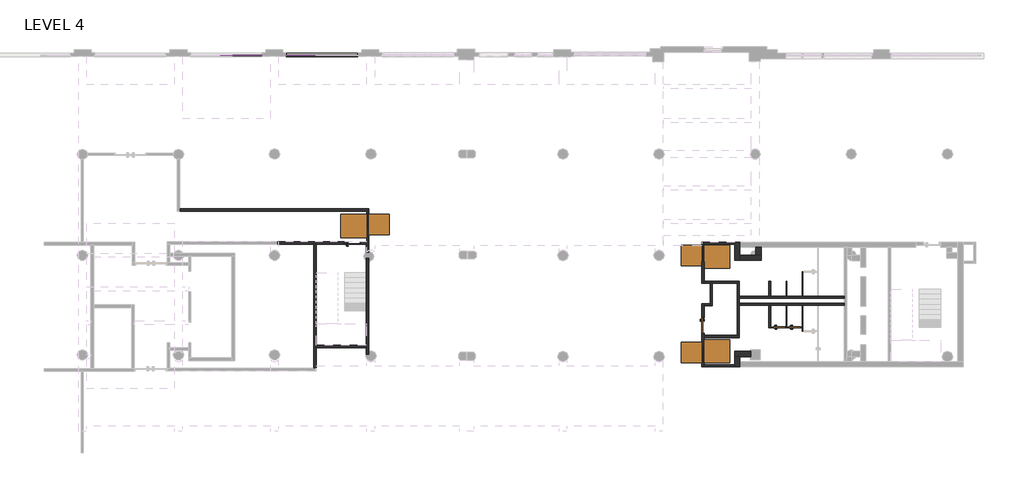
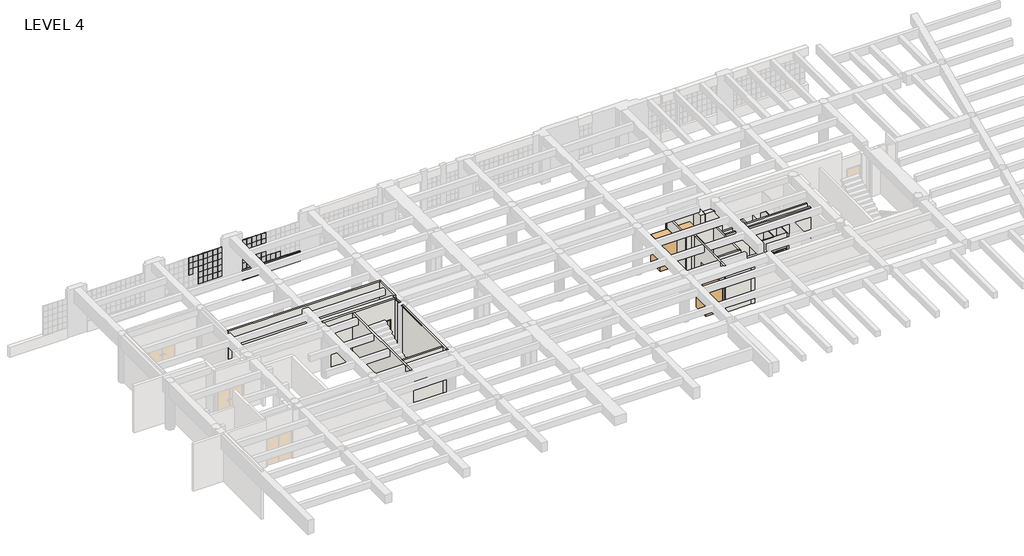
# One storey, part 11 of 26: 58 plates, 31 walls, 7 doors.
"""IFC4 building model written with IfcOpenShell, lengths in millimetres."""

from ifc_helpers import new_model, si_unit, frame, origin, origin_with_axes, place, context, project, spatial, polyline, outline, extrude, faceted_brep, transform, mapped, element, save
from components import door_08_door_single_swing_wh_f_28x60_77af0ad2, door_08_door_single_swing_wh_f_36x84_ec14af54, door_08_door_single_swing_wh_f_36x84_2c5d5a85, door_08_door_single_swing_wh_f_36x84_1fa449c7, door_08_door_single_swing_wh_f_36x84_601c17b8, system_panel_glazed_ab35d819, system_panel_glazed_418eb6cd, system_panel_glazed_c366ada3, system_panel_glazed_5fbbf350

model = new_model("IFC4")

# Units and contexts
model_context = context("Model", 3, world=origin())
ifc_project = project(units=[si_unit("LENGTHUNIT", "METRE", prefix="MILLI")], contexts=[model_context])

# Site, building, storey
site = spatial("IfcSite", under=ifc_project)
building = spatial("IfcBuilding", under=site)
storey = spatial("IfcBuildingStorey", under=building, Name="LEVEL 4", Elevation=0.0)

# Doors
placement = place(None, origin())
door_08_door_single_swing_wh_f_28x60_shape = door_08_door_single_swing_wh_f_28x60_77af0ad2(model_context)
element("IfcDoor", 1, ObjectType="08-DOOR-SINGLE-SWING-WH : F_28x60", at=placement, inside=storey, context=model_context, shape_type="MappedRepresentation", body=[
    mapped(door_08_door_single_swing_wh_f_28x60_shape, transform((-1571.4125493, 101025.8091334, 0.0), x_axis=(-1.0, 0.0, 0.0), y_axis=(0.0, -1.0, 0.0), z_axis=(0.0, 0.0, 1.0))),
])
element("IfcDoor", 2, ObjectType="08-DOOR-SINGLE-SWING-WH : F_28x60", at=placement, inside=storey, context=model_context, shape_type="MappedRepresentation", body=[
    mapped(door_08_door_single_swing_wh_f_28x60_shape, transform((-644.3125493, 101025.8091334, 0.0), x_axis=(-1.0, 0.0, 0.0), y_axis=(0.0, -1.0, 0.0), z_axis=(0.0, 0.0, 1.0))),
])
door_08_door_single_swing_wh_f_36x84_shape = door_08_door_single_swing_wh_f_36x84_ec14af54(model_context)
element("IfcDoor", 3, ObjectType="08-DOOR-SINGLE-SWING-WH : F_36x84", at=placement, inside=storey, context=model_context, shape_type="MappedRepresentation", body=[
    mapped(door_08_door_single_swing_wh_f_36x84_shape, transform((-6128.4403695, 99357.9417606, 0.0), x_axis=(0.0, 1.0, 0.0), y_axis=(-1.0, 0.0, 0.0), z_axis=(0.0, 0.0, 1.0))),
])
element("IfcDoor", 4, ObjectType="08-DOOR-SINGLE-SWING-WH : F_36x84", at=placement, inside=storey, context=model_context, shape_type="MappedRepresentation", body=[
    mapped(door_08_door_single_swing_wh_f_36x84_shape, transform((-26068.2134089, 107298.9244536, 0.0), x_axis=(0.0, -1.0, 0.0), y_axis=(1.0, 0.0, 0.0), z_axis=(0.0, 0.0, 1.0))),
])
door_08_door_single_swing_wh_f_36x84_2_shape = door_08_door_single_swing_wh_f_36x84_2c5d5a85(model_context)
element("IfcDoor", 5, ObjectType="08-DOOR-SINGLE-SWING-WH : F_36x84", at=placement, inside=storey, context=model_context, shape_type="MappedRepresentation", body=[
    mapped(door_08_door_single_swing_wh_f_36x84_2_shape, transform((-6128.4403695, 101128.0938133, 0.0), x_axis=(0.0, 1.0, 0.0), y_axis=(-1.0, 0.0, 0.0), z_axis=(0.0, 0.0, 1.0))),
])
door_08_door_single_swing_wh_f_36x84_3_shape = door_08_door_single_swing_wh_f_36x84_1fa449c7(model_context)
element("IfcDoor", 6, ObjectType="08-DOOR-SINGLE-SWING-WH : F_36x84", at=placement, inside=storey, context=model_context, shape_type="MappedRepresentation", body=[
    mapped(door_08_door_single_swing_wh_f_36x84_3_shape, transform((-6128.4403695, 105458.9224009, 0.0), x_axis=(0.0, -1.0, 0.0), y_axis=(1.0, 0.0, 0.0), z_axis=(0.0, 0.0, 1.0))),
])
door_08_door_single_swing_wh_f_36x84_4_shape = door_08_door_single_swing_wh_f_36x84_601c17b8(model_context)
element("IfcDoor", 7, ObjectType="08-DOOR-SINGLE-SWING-WH : F_36x84", at=placement, inside=storey, context=model_context, shape_type="MappedRepresentation", body=[
    mapped(door_08_door_single_swing_wh_f_36x84_4_shape, transform((-26953.1355887, 106035.9591334, 0.0), x_axis=(-1.0, 0.0, 0.0), y_axis=(0.0, -1.0, 0.0), z_axis=(0.0, 0.0, 1.0))),
])

# Plates
system_panel_glazed_shape = system_panel_glazed_ab35d819(model_context)
element("IfcPlate", 8, ObjectType="System Panel : Glazed", at=placement, inside=storey, context=model_context, shape_type="MappedRepresentation", body=[
    mapped(system_panel_glazed_shape, transform((-30728.4439794, 117226.3723091, 800.1), x_axis=(1.0, 0.0, 0.0), y_axis=(0.0, 1.0, 0.0), z_axis=(0.0, 0.0, 1.0))),
])
element("IfcPlate", 9, ObjectType="System Panel : Glazed", at=placement, inside=storey, context=model_context, shape_type="MappedRepresentation", body=[
    mapped(system_panel_glazed_shape, transform((-28239.2439792, 117226.3723091, 800.1), x_axis=(1.0, 0.0, 0.0), y_axis=(0.0, 1.0, 0.0), z_axis=(0.0, 0.0, 1.0))),
])
element("IfcPlate", 10, ObjectType="System Panel : Glazed", at=placement, inside=storey, context=model_context, shape_type="MappedRepresentation", body=[
    mapped(system_panel_glazed_shape, transform((-28594.8439792, 117226.3723091, 800.1), x_axis=(1.0, 0.0, 0.0), y_axis=(0.0, 1.0, 0.0), z_axis=(0.0, 0.0, 1.0))),
])
element("IfcPlate", 11, ObjectType="System Panel : Glazed", at=placement, inside=storey, context=model_context, shape_type="MappedRepresentation", body=[
    mapped(system_panel_glazed_shape, transform((-28950.4439792, 117226.3723091, 800.1), x_axis=(1.0, 0.0, 0.0), y_axis=(0.0, 1.0, 0.0), z_axis=(0.0, 0.0, 1.0))),
])
element("IfcPlate", 12, ObjectType="System Panel : Glazed", at=placement, inside=storey, context=model_context, shape_type="MappedRepresentation", body=[
    mapped(system_panel_glazed_shape, transform((-29306.0439792, 117226.3723091, 800.1), x_axis=(1.0, 0.0, 0.0), y_axis=(0.0, 1.0, 0.0), z_axis=(0.0, 0.0, 1.0))),
])
element("IfcPlate", 13, ObjectType="System Panel : Glazed", at=placement, inside=storey, context=model_context, shape_type="MappedRepresentation", body=[
    mapped(system_panel_glazed_shape, transform((-29661.6439792, 117226.3723091, 800.1), x_axis=(1.0, 0.0, 0.0), y_axis=(0.0, 1.0, 0.0), z_axis=(0.0, 0.0, 1.0))),
])
element("IfcPlate", 14, ObjectType="System Panel : Glazed", at=placement, inside=storey, context=model_context, shape_type="MappedRepresentation", body=[
    mapped(system_panel_glazed_shape, transform((-30728.4439794, 117226.3723091, 1257.3), x_axis=(1.0, 0.0, 0.0), y_axis=(0.0, 1.0, 0.0), z_axis=(0.0, 0.0, 1.0))),
])
element("IfcPlate", 15, ObjectType="System Panel : Glazed", at=placement, inside=storey, context=model_context, shape_type="MappedRepresentation", body=[
    mapped(system_panel_glazed_shape, transform((-29306.0439792, 117226.3723091, 1257.3), x_axis=(1.0, 0.0, 0.0), y_axis=(0.0, 1.0, 0.0), z_axis=(0.0, 0.0, 1.0))),
])
element("IfcPlate", 16, ObjectType="System Panel : Glazed", at=placement, inside=storey, context=model_context, shape_type="MappedRepresentation", body=[
    mapped(system_panel_glazed_shape, transform((-29661.6439792, 117226.3723091, 1257.3), x_axis=(1.0, 0.0, 0.0), y_axis=(0.0, 1.0, 0.0), z_axis=(0.0, 0.0, 1.0))),
])
element("IfcPlate", 17, ObjectType="System Panel : Glazed", at=placement, inside=storey, context=model_context, shape_type="MappedRepresentation", body=[
    mapped(system_panel_glazed_shape, transform((-30728.4439794, 117226.3723091, 1714.5), x_axis=(1.0, 0.0, 0.0), y_axis=(0.0, 1.0, 0.0), z_axis=(0.0, 0.0, 1.0))),
])
element("IfcPlate", 18, ObjectType="System Panel : Glazed", at=placement, inside=storey, context=model_context, shape_type="MappedRepresentation", body=[
    mapped(system_panel_glazed_shape, transform((-29306.0439792, 117226.3723091, 1714.5), x_axis=(1.0, 0.0, 0.0), y_axis=(0.0, 1.0, 0.0), z_axis=(0.0, 0.0, 1.0))),
])
element("IfcPlate", 19, ObjectType="System Panel : Glazed", at=placement, inside=storey, context=model_context, shape_type="MappedRepresentation", body=[
    mapped(system_panel_glazed_shape, transform((-29661.6439792, 117226.3723091, 1714.5), x_axis=(1.0, 0.0, 0.0), y_axis=(0.0, 1.0, 0.0), z_axis=(0.0, 0.0, 1.0))),
])
element("IfcPlate", 20, ObjectType="System Panel : Glazed", at=placement, inside=storey, context=model_context, shape_type="MappedRepresentation", body=[
    mapped(system_panel_glazed_shape, transform((-30728.4439794, 117226.3723091, 2171.7), x_axis=(1.0, 0.0, 0.0), y_axis=(0.0, 1.0, 0.0), z_axis=(0.0, 0.0, 1.0))),
])
element("IfcPlate", 21, ObjectType="System Panel : Glazed", at=placement, inside=storey, context=model_context, shape_type="MappedRepresentation", body=[
    mapped(system_panel_glazed_shape, transform((-29306.0439792, 117226.3723091, 2171.7), x_axis=(1.0, 0.0, 0.0), y_axis=(0.0, 1.0, 0.0), z_axis=(0.0, 0.0, 1.0))),
])
element("IfcPlate", 22, ObjectType="System Panel : Glazed", at=placement, inside=storey, context=model_context, shape_type="MappedRepresentation", body=[
    mapped(system_panel_glazed_shape, transform((-29661.6439792, 117226.3723091, 2171.7), x_axis=(1.0, 0.0, 0.0), y_axis=(0.0, 1.0, 0.0), z_axis=(0.0, 0.0, 1.0))),
])
element("IfcPlate", 23, ObjectType="System Panel : Glazed", at=placement, inside=storey, context=model_context, shape_type="MappedRepresentation", body=[
    mapped(system_panel_glazed_shape, transform((-30372.8439792, 117226.3723091, 800.1), x_axis=(1.0, 0.0, 0.0), y_axis=(0.0, 1.0, 0.0), z_axis=(0.0, 0.0, 1.0))),
])
element("IfcPlate", 24, ObjectType="System Panel : Glazed", at=placement, inside=storey, context=model_context, shape_type="MappedRepresentation", body=[
    mapped(system_panel_glazed_shape, transform((-30372.8439792, 117226.3723091, 1257.3), x_axis=(1.0, 0.0, 0.0), y_axis=(0.0, 1.0, 0.0), z_axis=(0.0, 0.0, 1.0))),
])
element("IfcPlate", 25, ObjectType="System Panel : Glazed", at=placement, inside=storey, context=model_context, shape_type="MappedRepresentation", body=[
    mapped(system_panel_glazed_shape, transform((-30372.8439792, 117226.3723091, 1714.5), x_axis=(1.0, 0.0, 0.0), y_axis=(0.0, 1.0, 0.0), z_axis=(0.0, 0.0, 1.0))),
])
element("IfcPlate", 26, ObjectType="System Panel : Glazed", at=placement, inside=storey, context=model_context, shape_type="MappedRepresentation", body=[
    mapped(system_panel_glazed_shape, transform((-30372.8439792, 117226.3723091, 2171.7), x_axis=(1.0, 0.0, 0.0), y_axis=(0.0, 1.0, 0.0), z_axis=(0.0, 0.0, 1.0))),
])
element("IfcPlate", 27, ObjectType="System Panel : Glazed", at=placement, inside=storey, context=model_context, shape_type="MappedRepresentation", body=[
    mapped(system_panel_glazed_shape, transform((-30017.2439792, 117226.3723091, 800.1), x_axis=(1.0, 0.0, 0.0), y_axis=(0.0, 1.0, 0.0), z_axis=(0.0, 0.0, 1.0))),
])
element("IfcPlate", 28, ObjectType="System Panel : Glazed", at=placement, inside=storey, context=model_context, shape_type="MappedRepresentation", body=[
    mapped(system_panel_glazed_shape, transform((-30017.2439792, 117226.3723091, 1257.3), x_axis=(1.0, 0.0, 0.0), y_axis=(0.0, 1.0, 0.0), z_axis=(0.0, 0.0, 1.0))),
])
element("IfcPlate", 29, ObjectType="System Panel : Glazed", at=placement, inside=storey, context=model_context, shape_type="MappedRepresentation", body=[
    mapped(system_panel_glazed_shape, transform((-30017.2439792, 117226.3723091, 1714.5), x_axis=(1.0, 0.0, 0.0), y_axis=(0.0, 1.0, 0.0), z_axis=(0.0, 0.0, 1.0))),
])
element("IfcPlate", 30, ObjectType="System Panel : Glazed", at=placement, inside=storey, context=model_context, shape_type="MappedRepresentation", body=[
    mapped(system_panel_glazed_shape, transform((-30017.2439792, 117226.3723091, 2171.7), x_axis=(1.0, 0.0, 0.0), y_axis=(0.0, 1.0, 0.0), z_axis=(0.0, 0.0, 1.0))),
])
element("IfcPlate", 31, ObjectType="System Panel : Glazed", at=placement, inside=storey, context=model_context, shape_type="MappedRepresentation", body=[
    mapped(system_panel_glazed_shape, transform((-32867.5794115, 117218.5604847, 800.1), x_axis=(1.0, 0.0, 0.0), y_axis=(0.0, 1.0, 0.0), z_axis=(0.0, 0.0, 1.0))),
])
element("IfcPlate", 32, ObjectType="System Panel : Glazed", at=placement, inside=storey, context=model_context, shape_type="MappedRepresentation", body=[
    mapped(system_panel_glazed_shape, transform((-33223.1794115, 117218.5604847, 800.1), x_axis=(1.0, 0.0, 0.0), y_axis=(0.0, 1.0, 0.0), z_axis=(0.0, 0.0, 1.0))),
])
element("IfcPlate", 33, ObjectType="System Panel : Glazed", at=placement, inside=storey, context=model_context, shape_type="MappedRepresentation", body=[
    mapped(system_panel_glazed_shape, transform((-33578.7794115, 117218.5604847, 800.1), x_axis=(1.0, 0.0, 0.0), y_axis=(0.0, 1.0, 0.0), z_axis=(0.0, 0.0, 1.0))),
])
element("IfcPlate", 34, ObjectType="System Panel : Glazed", at=placement, inside=storey, context=model_context, shape_type="MappedRepresentation", body=[
    mapped(system_panel_glazed_shape, transform((-33934.3794115, 117218.5604847, 800.1), x_axis=(1.0, 0.0, 0.0), y_axis=(0.0, 1.0, 0.0), z_axis=(0.0, 0.0, 1.0))),
])
element("IfcPlate", 35, ObjectType="System Panel : Glazed", at=placement, inside=storey, context=model_context, shape_type="MappedRepresentation", body=[
    mapped(system_panel_glazed_shape, transform((-33223.1794115, 117218.5604847, 1257.3), x_axis=(1.0, 0.0, 0.0), y_axis=(0.0, 1.0, 0.0), z_axis=(0.0, 0.0, 1.0))),
])
element("IfcPlate", 36, ObjectType="System Panel : Glazed", at=placement, inside=storey, context=model_context, shape_type="MappedRepresentation", body=[
    mapped(system_panel_glazed_shape, transform((-33578.7794115, 117218.5604847, 1257.3), x_axis=(1.0, 0.0, 0.0), y_axis=(0.0, 1.0, 0.0), z_axis=(0.0, 0.0, 1.0))),
])
element("IfcPlate", 37, ObjectType="System Panel : Glazed", at=placement, inside=storey, context=model_context, shape_type="MappedRepresentation", body=[
    mapped(system_panel_glazed_shape, transform((-33934.3794115, 117218.5604847, 1257.3), x_axis=(1.0, 0.0, 0.0), y_axis=(0.0, 1.0, 0.0), z_axis=(0.0, 0.0, 1.0))),
])
element("IfcPlate", 38, ObjectType="System Panel : Glazed", at=placement, inside=storey, context=model_context, shape_type="MappedRepresentation", body=[
    mapped(system_panel_glazed_shape, transform((-32867.5794115, 117218.5604847, 1257.3), x_axis=(1.0, 0.0, 0.0), y_axis=(0.0, 1.0, 0.0), z_axis=(0.0, 0.0, 1.0))),
])
element("IfcPlate", 39, ObjectType="System Panel : Glazed", at=placement, inside=storey, context=model_context, shape_type="MappedRepresentation", body=[
    mapped(system_panel_glazed_shape, transform((-33223.1794115, 117218.5604847, 1714.5), x_axis=(1.0, 0.0, 0.0), y_axis=(0.0, 1.0, 0.0), z_axis=(0.0, 0.0, 1.0))),
])
element("IfcPlate", 40, ObjectType="System Panel : Glazed", at=placement, inside=storey, context=model_context, shape_type="MappedRepresentation", body=[
    mapped(system_panel_glazed_shape, transform((-33578.7794115, 117218.5604847, 1714.5), x_axis=(1.0, 0.0, 0.0), y_axis=(0.0, 1.0, 0.0), z_axis=(0.0, 0.0, 1.0))),
])
element("IfcPlate", 41, ObjectType="System Panel : Glazed", at=placement, inside=storey, context=model_context, shape_type="MappedRepresentation", body=[
    mapped(system_panel_glazed_shape, transform((-33934.3794115, 117218.5604847, 1714.5), x_axis=(1.0, 0.0, 0.0), y_axis=(0.0, 1.0, 0.0), z_axis=(0.0, 0.0, 1.0))),
])
element("IfcPlate", 42, ObjectType="System Panel : Glazed", at=placement, inside=storey, context=model_context, shape_type="MappedRepresentation", body=[
    mapped(system_panel_glazed_shape, transform((-34645.5794115, 117218.5604847, 1714.5), x_axis=(1.0, 0.0, 0.0), y_axis=(0.0, 1.0, 0.0), z_axis=(0.0, 0.0, 1.0))),
])
element("IfcPlate", 43, ObjectType="System Panel : Glazed", at=placement, inside=storey, context=model_context, shape_type="MappedRepresentation", body=[
    mapped(system_panel_glazed_shape, transform((-32867.5794115, 117218.5604847, 1714.5), x_axis=(1.0, 0.0, 0.0), y_axis=(0.0, 1.0, 0.0), z_axis=(0.0, 0.0, 1.0))),
])
element("IfcPlate", 44, ObjectType="System Panel : Glazed", at=placement, inside=storey, context=model_context, shape_type="MappedRepresentation", body=[
    mapped(system_panel_glazed_shape, transform((-33223.1794115, 117218.5604847, 2171.7), x_axis=(1.0, 0.0, 0.0), y_axis=(0.0, 1.0, 0.0), z_axis=(0.0, 0.0, 1.0))),
])
element("IfcPlate", 45, ObjectType="System Panel : Glazed", at=placement, inside=storey, context=model_context, shape_type="MappedRepresentation", body=[
    mapped(system_panel_glazed_shape, transform((-33578.7794115, 117218.5604847, 2171.7), x_axis=(1.0, 0.0, 0.0), y_axis=(0.0, 1.0, 0.0), z_axis=(0.0, 0.0, 1.0))),
])
element("IfcPlate", 46, ObjectType="System Panel : Glazed", at=placement, inside=storey, context=model_context, shape_type="MappedRepresentation", body=[
    mapped(system_panel_glazed_shape, transform((-33934.3794115, 117218.5604847, 2171.7), x_axis=(1.0, 0.0, 0.0), y_axis=(0.0, 1.0, 0.0), z_axis=(0.0, 0.0, 1.0))),
])
element("IfcPlate", 47, ObjectType="System Panel : Glazed", at=placement, inside=storey, context=model_context, shape_type="MappedRepresentation", body=[
    mapped(system_panel_glazed_shape, transform((-34289.9794115, 117218.5604847, 2171.7), x_axis=(1.0, 0.0, 0.0), y_axis=(0.0, 1.0, 0.0), z_axis=(0.0, 0.0, 1.0))),
])
element("IfcPlate", 48, ObjectType="System Panel : Glazed", at=placement, inside=storey, context=model_context, shape_type="MappedRepresentation", body=[
    mapped(system_panel_glazed_shape, transform((-34645.5794115, 117218.5604847, 2171.7), x_axis=(1.0, 0.0, 0.0), y_axis=(0.0, 1.0, 0.0), z_axis=(0.0, 0.0, 1.0))),
])
element("IfcPlate", 49, ObjectType="System Panel : Glazed", at=placement, inside=storey, context=model_context, shape_type="MappedRepresentation", body=[
    mapped(system_panel_glazed_shape, transform((-32867.5794115, 117218.5604847, 2171.7), x_axis=(1.0, 0.0, 0.0), y_axis=(0.0, 1.0, 0.0), z_axis=(0.0, 0.0, 1.0))),
])
system_panel_glazed_2_shape = system_panel_glazed_418eb6cd(model_context)
element("IfcPlate", 50, ObjectType="System Panel : Glazed", at=placement, inside=storey, context=model_context, shape_type="MappedRepresentation", body=[
    mapped(system_panel_glazed_2_shape, transform((-30728.4439794, 117226.3723091, 2628.9), x_axis=(1.0, 0.0, 0.0), y_axis=(0.0, 1.0, 0.0), z_axis=(0.0, 0.0, 1.0))),
])
element("IfcPlate", 51, ObjectType="System Panel : Glazed", at=placement, inside=storey, context=model_context, shape_type="MappedRepresentation", body=[
    mapped(system_panel_glazed_2_shape, transform((-29306.0439792, 117226.3723091, 2628.9), x_axis=(1.0, 0.0, 0.0), y_axis=(0.0, 1.0, 0.0), z_axis=(0.0, 0.0, 1.0))),
])
element("IfcPlate", 52, ObjectType="System Panel : Glazed", at=placement, inside=storey, context=model_context, shape_type="MappedRepresentation", body=[
    mapped(system_panel_glazed_2_shape, transform((-29661.6439792, 117226.3723091, 2628.9), x_axis=(1.0, 0.0, 0.0), y_axis=(0.0, 1.0, 0.0), z_axis=(0.0, 0.0, 1.0))),
])
element("IfcPlate", 53, ObjectType="System Panel : Glazed", at=placement, inside=storey, context=model_context, shape_type="MappedRepresentation", body=[
    mapped(system_panel_glazed_2_shape, transform((-30372.8439792, 117226.3723091, 2628.9), x_axis=(1.0, 0.0, 0.0), y_axis=(0.0, 1.0, 0.0), z_axis=(0.0, 0.0, 1.0))),
])
element("IfcPlate", 54, ObjectType="System Panel : Glazed", at=placement, inside=storey, context=model_context, shape_type="MappedRepresentation", body=[
    mapped(system_panel_glazed_2_shape, transform((-30017.2439792, 117226.3723091, 2628.9), x_axis=(1.0, 0.0, 0.0), y_axis=(0.0, 1.0, 0.0), z_axis=(0.0, 0.0, 1.0))),
])
element("IfcPlate", 55, ObjectType="System Panel : Glazed", at=placement, inside=storey, context=model_context, shape_type="MappedRepresentation", body=[
    mapped(system_panel_glazed_2_shape, transform((-33223.1794115, 117218.5604847, 2628.9), x_axis=(1.0, 0.0, 0.0), y_axis=(0.0, 1.0, 0.0), z_axis=(0.0, 0.0, 1.0))),
])
element("IfcPlate", 56, ObjectType="System Panel : Glazed", at=placement, inside=storey, context=model_context, shape_type="MappedRepresentation", body=[
    mapped(system_panel_glazed_2_shape, transform((-33578.7794115, 117218.5604847, 2628.9), x_axis=(1.0, 0.0, 0.0), y_axis=(0.0, 1.0, 0.0), z_axis=(0.0, 0.0, 1.0))),
])
element("IfcPlate", 57, ObjectType="System Panel : Glazed", at=placement, inside=storey, context=model_context, shape_type="MappedRepresentation", body=[
    mapped(system_panel_glazed_2_shape, transform((-33934.3794115, 117218.5604847, 2628.9), x_axis=(1.0, 0.0, 0.0), y_axis=(0.0, 1.0, 0.0), z_axis=(0.0, 0.0, 1.0))),
])
element("IfcPlate", 58, ObjectType="System Panel : Glazed", at=placement, inside=storey, context=model_context, shape_type="MappedRepresentation", body=[
    mapped(system_panel_glazed_2_shape, transform((-34289.9794115, 117218.5604847, 2628.9), x_axis=(1.0, 0.0, 0.0), y_axis=(0.0, 1.0, 0.0), z_axis=(0.0, 0.0, 1.0))),
])
element("IfcPlate", 59, ObjectType="System Panel : Glazed", at=placement, inside=storey, context=model_context, shape_type="MappedRepresentation", body=[
    mapped(system_panel_glazed_2_shape, transform((-34645.5794115, 117218.5604847, 2628.9), x_axis=(1.0, 0.0, 0.0), y_axis=(0.0, 1.0, 0.0), z_axis=(0.0, 0.0, 1.0))),
])
element("IfcPlate", 60, ObjectType="System Panel : Glazed", at=placement, inside=storey, context=model_context, shape_type="MappedRepresentation", body=[
    mapped(system_panel_glazed_2_shape, transform((-32867.5794115, 117218.5604847, 2628.9), x_axis=(1.0, 0.0, 0.0), y_axis=(0.0, 1.0, 0.0), z_axis=(0.0, 0.0, 1.0))),
])
system_panel_glazed_3_shape = system_panel_glazed_c366ada3(model_context)
element("IfcPlate", 61, ObjectType="System Panel : Glazed", at=placement, inside=storey, context=model_context, shape_type="MappedRepresentation", body=[
    mapped(system_panel_glazed_3_shape, transform((-32528.2616955, 117218.5604847, 800.1), x_axis=(1.0, 0.0, 0.0), y_axis=(0.0, 1.0, 0.0), z_axis=(0.0, 0.0, 1.0))),
])
element("IfcPlate", 62, ObjectType="System Panel : Glazed", at=placement, inside=storey, context=model_context, shape_type="MappedRepresentation", body=[
    mapped(system_panel_glazed_3_shape, transform((-32528.2616955, 117218.5604847, 1257.3), x_axis=(1.0, 0.0, 0.0), y_axis=(0.0, 1.0, 0.0), z_axis=(0.0, 0.0, 1.0))),
])
element("IfcPlate", 63, ObjectType="System Panel : Glazed", at=placement, inside=storey, context=model_context, shape_type="MappedRepresentation", body=[
    mapped(system_panel_glazed_3_shape, transform((-32528.2616955, 117218.5604847, 1714.5), x_axis=(1.0, 0.0, 0.0), y_axis=(0.0, 1.0, 0.0), z_axis=(0.0, 0.0, 1.0))),
])
element("IfcPlate", 64, ObjectType="System Panel : Glazed", at=placement, inside=storey, context=model_context, shape_type="MappedRepresentation", body=[
    mapped(system_panel_glazed_3_shape, transform((-32528.2616955, 117218.5604847, 2171.7), x_axis=(1.0, 0.0, 0.0), y_axis=(0.0, 1.0, 0.0), z_axis=(0.0, 0.0, 1.0))),
])
system_panel_glazed_4_shape = system_panel_glazed_5fbbf350(model_context)
element("IfcPlate", 65, ObjectType="System Panel : Glazed", at=placement, inside=storey, context=model_context, shape_type="MappedRepresentation", body=[
    mapped(system_panel_glazed_4_shape, transform((-32528.2616955, 117218.5604847, 2628.9), x_axis=(1.0, 0.0, 0.0), y_axis=(0.0, 1.0, 0.0), z_axis=(0.0, 0.0, 1.0))),
])

# Walls
element("IfcWall", 66, ObjectType="A_3.6Stud_0Hr_1GB_FullHeight", at=placement, inside=storey, context=model_context, shape_type="Brep", body=[
    faceted_brep([(-6190.3528695, 105967.6070808, 0.0), (-6066.5278695, 105967.6070808, 0.0), (-4240.9028695, 105967.6070808, 0.0), (-4240.9028695, 105967.6070808, 3048.0), (-6066.5278695, 105967.6070808, 3048.0), (-6190.3528695, 105967.6070808, 3048.0), (-6190.3528695, 106091.4320808, 0.0), (-6190.3528695, 106091.4320808, 3048.0), (-4240.9028695, 106091.4320808, 3048.0), (-4240.9028695, 106091.4320808, 0.0)], [[[0, 1, 2, 3, 4, 5]], [[6, 7, 8, 9]], [[2, 1, 0, 6, 9]], [[5, 4, 3, 8, 7]], [[0, 5, 7, 6]], [[3, 2, 9, 8]]]),
])
element("IfcWall", 67, ObjectType="A_3.6Stud_0Hr_1GB_FullHeight", at=placement, inside=storey, context=model_context, shape_type="Brep", body=[
    faceted_brep([(-6066.5278695, 101654.4591334, 2184.4), (-6066.5278695, 101654.4591334, 0.0), (-6066.5278695, 102297.3070808, 0.0), (-6066.5278695, 102424.3070808, 0.0), (-6066.5278695, 102424.3070808, 3048.0), (-6066.5278695, 102424.3070808, 3657.6), (-6066.5278695, 98674.6320808, 3657.6), (-6066.5278695, 98674.6320808, 3048.0), (-6066.5278695, 98674.6320808, 0.0), (-6066.5278695, 98798.4570808, 0.0), (-6066.5278695, 98868.3070808, 0.0), (-6066.5278695, 98868.3070808, 2184.4), (-6066.5278695, 99884.3070808, 2184.4), (-6066.5278695, 99884.3070808, 0.0), (-6066.5278695, 100417.7070808, 0.0), (-6066.5278695, 100547.8820808, 0.0), (-6066.5278695, 100638.4591334, 0.0), (-6066.5278695, 100638.4591334, 2184.4), (-6190.3528695, 102424.3070808, 0.0), (-6190.3528695, 101654.4591334, 0.0), (-6190.3528695, 101654.4591334, 2184.4), (-6190.3528695, 100638.4591334, 2184.4), (-6190.3528695, 100638.4591334, 0.0), (-6190.3528695, 99884.3070808, 0.0), (-6190.3528695, 99884.3070808, 2184.4), (-6190.3528695, 98868.3070808, 2184.4), (-6190.3528695, 98868.3070808, 0.0), (-6190.3528695, 98674.6320808, 0.0), (-6190.3528695, 98674.6320808, 3657.6), (-6190.3528695, 102424.3070808, 3657.6)], [[[0, 1, 2, 3, 4, 5, 6, 7, 8, 9, 10, 11, 12, 13, 14, 15, 16, 17]], [[18, 19, 20, 21, 22, 23, 24, 25, 26, 27, 28, 29]], [[10, 9, 8, 27, 26]], [[16, 15, 14, 13, 23, 22]], [[3, 2, 1, 19, 18]], [[6, 5, 29, 28]], [[8, 7, 6, 28, 27]], [[26, 25, 11, 10]], [[24, 23, 13, 12]], [[25, 24, 12, 11]], [[22, 21, 17, 16]], [[20, 19, 1, 0]], [[21, 20, 0, 17]], [[5, 4, 3, 18, 29]]]),
])
element("IfcWall", 68, ObjectType="A_3.6Stud_0Hr_1GB_FullHeight", at=placement, inside=storey, context=model_context, shape_type="SweptSolid", body=[
    extrude(outline(polyline([(-4240.9028695, 98674.6320808), (-6066.5278695, 98674.6320808), (-6066.5278695, 98798.4570808), (-4240.9028695, 98798.4570808), (-4240.9028695, 98674.6320808)])), origin_with_axes(), (0.0, 0.0, 1.0), 3048.0),
])
element("IfcWall", 69, ObjectType="A_3.6Stud_0Hr_1GB_FullHeight", at=placement, inside=storey, context=model_context, shape_type="Brep", body=[
    faceted_brep([(-6066.5278695, 105967.6070808, 3048.0), (-6066.5278695, 103764.1570808, 3048.0), (-6066.5278695, 103637.1570808, 3048.0), (-6066.5278695, 103637.1570808, 0.0), (-6066.5278695, 103764.1570808, 0.0), (-6066.5278695, 104932.5570808, 0.0), (-6066.5278695, 104932.5570808, 2184.4), (-6066.5278695, 105948.5570808, 2184.4), (-6066.5278695, 105948.5570808, 0.0), (-6066.5278695, 105967.6070808, 0.0), (-6190.3528695, 103637.1570808, 3048.0), (-6190.3528695, 105967.6070808, 3048.0), (-6190.3528695, 105967.6070808, 0.0), (-6190.3528695, 105948.5570808, 0.0), (-6190.3528695, 105948.5570808, 2184.4), (-6190.3528695, 104932.5570808, 2184.4), (-6190.3528695, 104932.5570808, 0.0), (-6190.3528695, 103637.1570808, 0.0)], [[[0, 1, 2, 3, 4, 5, 6, 7, 8, 9]], [[10, 11, 12, 13, 14, 15, 16, 17]], [[12, 9, 8, 13]], [[3, 17, 16, 5, 4]], [[2, 1, 0, 11, 10]], [[0, 9, 12, 11]], [[3, 2, 10, 17]], [[7, 14, 13, 8]], [[15, 6, 5, 16]], [[14, 7, 6, 15]]]),
])
element("IfcWall", 70, ObjectType="A_3.6Stud_0Hr_1GB_FullHeight", at=placement, inside=storey, context=model_context, shape_type="Brep", body=[
    faceted_brep([(-2097.7778695, 101013.1091334, 0.0), (-2097.7778695, 102343.4341334, 0.0), (-2097.7778695, 102343.4341334, 2743.2), (-2097.7778695, 101038.5091334, 2743.2), (-2097.7778695, 101013.1091334, 2743.2), (-2097.7778695, 101013.1091334, 304.8), (-2221.6028695, 101013.1091334, 0.0), (-2221.6028695, 101013.1091334, 2743.2), (-2221.6028695, 102343.4341334, 2743.2), (-2221.6028695, 102343.4341334, 0.0)], [[[0, 1, 2, 3, 4, 5]], [[6, 7, 8, 9]], [[1, 0, 6, 9]], [[4, 3, 2, 8, 7]], [[2, 1, 9, 8]], [[0, 5, 4, 7, 6]]]),
])
element("IfcWall", 71, ObjectType="F_3.6Stud_0Hr_1GB_FullHtFurring", at=placement, inside=storey, context=model_context, shape_type="Brep", body=[
    faceted_brep([(-3980.5528695, 102343.4341334, 0.0), (-2221.6028695, 102343.4341334, 0.0), (-2097.7778695, 102343.4341334, 0.0), (2283.7221305, 102343.4341334, 0.0), (2283.7221305, 102343.4341334, 3048.0), (-3980.5528695, 102343.4341334, 3048.0), (-3980.5528695, 102451.3841334, 0.0), (-3980.5528695, 102451.3841334, 3048.0), (2283.7221305, 102451.3841334, 3048.0), (2283.7221305, 102451.3841334, 0.0)], [[[0, 1, 2, 3, 4, 5]], [[6, 7, 8, 9]], [[3, 2, 1, 0, 6, 9]], [[5, 4, 8, 7]], [[4, 3, 9, 8]], [[0, 5, 7, 6]]]),
])
element("IfcWall", 72, ObjectType="F_3.6Stud_0Hr_1GB_FullHtFurring", at=placement, inside=storey, context=model_context, shape_type="Brep", body=[
    faceted_brep([(-3980.5528695, 102762.5341334, 0.0), (2283.7221305, 102762.5341334, 0.0), (2283.7221305, 102762.5341334, 3048.0), (-3980.5528695, 102762.5341334, 3048.0), (-3980.5528695, 102870.4841334, 0.0), (-3980.5528695, 102870.4841334, 3048.0), (-2221.6028695, 102870.4841334, 3048.0), (-2097.7778695, 102870.4841334, 3048.0), (2283.7221305, 102870.4841334, 3048.0), (2283.7221305, 102870.4841334, 0.0), (-2097.7778695, 102870.4841334, 0.0), (-2221.6028695, 102870.4841334, 0.0)], [[[0, 1, 2, 3]], [[4, 5, 6, 7, 8, 9, 10, 11]], [[1, 0, 4, 11, 10, 9]], [[3, 2, 8, 7, 6, 5]], [[2, 1, 9, 8]], [[0, 3, 5, 4]]]),
])
element("IfcWall", 73, ObjectType="A_3.6Stud_0Hr_1GB_FullHeight", at=placement, inside=storey, context=model_context, shape_type="SweptSolid", body=[
    extrude(outline(polyline([(-2097.7778695, 103764.1570808), (-2097.7778695, 102870.4841334), (-2221.6028695, 102870.4841334), (-2221.6028695, 103764.1570808), (-2097.7778695, 103764.1570808)])), origin_with_axes(), (0.0, 0.0, 1.0), 3048.0),
])
element("IfcWall", 74, ObjectType="A_3.6Stud_0Hr_1GB_FullHeight", at=placement, inside=storey, context=model_context, shape_type="Brep", body=[
    faceted_brep([(-3980.5528695, 100547.8820808, 0.0), (-3980.5528695, 102343.4341334, 0.0), (-3980.5528695, 102451.3841334, 0.0), (-3980.5528695, 102762.5341334, 0.0), (-3980.5528695, 102870.4841334, 0.0), (-3980.5528695, 103637.1570808, 0.0), (-3980.5528695, 103637.1570808, 3048.0), (-3980.5528695, 102870.4841334, 3048.0), (-3980.5528695, 102762.5341334, 3048.0), (-3980.5528695, 102451.3841334, 3048.0), (-3980.5528695, 102343.4341334, 3048.0), (-3980.5528695, 100547.8820808, 3048.0), (-4104.3778695, 100547.8820808, 0.0), (-4104.3778695, 100547.8820808, 3048.0), (-4104.3778695, 103637.1570808, 3048.0), (-4104.3778695, 103637.1570808, 0.0)], [[[0, 1, 2, 3, 4, 5, 6, 7, 8, 9, 10, 11]], [[12, 13, 14, 15]], [[5, 4, 3, 2, 1, 0, 12, 15]], [[11, 10, 9, 8, 7, 6, 14, 13]], [[0, 11, 13, 12]], [[6, 5, 15, 14]]]),
])
element("IfcWall", 75, ObjectType="A_3.6Stud_0Hr_1GB_FullHeight", at=placement, inside=storey, context=model_context, shape_type="Brep", body=[
    faceted_brep([(-37253.7384089, 107940.9591334, 0.0), (-26130.1259089, 107940.9591334, 0.0), (-26006.3009089, 107940.9591334, 0.0), (-26006.3009089, 107940.9591334, 3810.0), (-26130.1259089, 107940.9591334, 3810.0), (-37253.7384089, 107940.9591334, 3810.0), (-37253.7384089, 108064.7841334, 0.0), (-37253.7384089, 108064.7841334, 3810.0), (-26006.3009089, 108064.7841334, 3810.0), (-26006.3009089, 108064.7841334, 0.0)], [[[0, 1, 2, 3, 4, 5]], [[6, 7, 8, 9]], [[2, 1, 0, 6, 9]], [[5, 4, 3, 8, 7]], [[0, 5, 7, 6]], [[3, 2, 9, 8]]]),
])
element("IfcWall", 76, ObjectType="A_3.6Stud_0Hr_1GB_FullHeight", at=placement, inside=storey, context=model_context, shape_type="SweptSolid", body=[
    extrude(outline(polyline([(106112.1591334, 0.0), (106112.1591334, 3810.0), (107940.9591334, 3810.0), (107940.9591334, 0.0), (107788.5591334, 0.0), (107788.5591334, 2184.4), (106772.5591334, 2184.4), (106772.5591334, 0.0), (106112.1591334, 0.0)])), frame((-26130.1259089, 0.0, 0.0), z_axis=(1.0, 0.0, 0.0), x_axis=(0.0, 1.0, 0.0)), (0.0, 0.0, 1.0), 123.825),
])
element("IfcWall", 77, ObjectType="_Generic - 1\" 2", at=placement, inside=storey, context=model_context, shape_type="Brep", body=[
    faceted_brep([(-230.8778695, 101013.1091334, 2743.2), (-2097.7778695, 101013.1091334, 2743.2), (-2097.7778695, 101013.1091334, 304.8), (-1996.1778695, 101013.1091334, 304.8), (-1996.1778695, 101013.1091334, 1574.8), (-1183.3778695, 101013.1091334, 1574.8), (-1183.3778695, 101013.1091334, 304.8), (-1069.0778695, 101013.1091334, 304.8), (-1069.0778695, 101013.1091334, 1574.8), (-256.2778695, 101013.1091334, 1574.8), (-256.2778695, 101013.1091334, 304.8), (-230.8778695, 101013.1091334, 304.8), (-2097.7778695, 101038.5091334, 2743.2), (-1170.6778695, 101038.5091334, 2743.2), (-1145.2778695, 101038.5091334, 2743.2), (-230.8778695, 101038.5091334, 2743.2), (-230.8778695, 101038.5091334, 304.8), (-256.2778695, 101038.5091334, 304.8), (-256.2778695, 101038.5091334, 1574.8), (-1069.0778695, 101038.5091334, 1574.8), (-1069.0778695, 101038.5091334, 304.8), (-1145.2778695, 101038.5091334, 304.8), (-1170.6778695, 101038.5091334, 304.8), (-1183.3778695, 101038.5091334, 304.8), (-1183.3778695, 101038.5091334, 1574.8), (-1996.1778695, 101038.5091334, 1574.8), (-1996.1778695, 101038.5091334, 304.8), (-2097.7778695, 101038.5091334, 304.8)], [[[0, 1, 2, 3, 4, 5, 6, 7, 8, 9, 10, 11]], [[12, 13, 14, 15, 16, 17, 18, 19, 20, 21, 22, 23, 24, 25, 26, 27]], [[2, 27, 26, 3]], [[16, 11, 10, 17]], [[6, 23, 22, 21, 20, 7]], [[1, 0, 15, 14, 13, 12]], [[2, 1, 12, 27]], [[0, 11, 16, 15]], [[5, 24, 23, 6]], [[25, 4, 3, 26]], [[24, 5, 4, 25]], [[9, 18, 17, 10]], [[19, 8, 7, 20]], [[18, 9, 8, 19]]]),
])
element("IfcWall", 78, ObjectType="_Generic - 1\" 2", at=placement, inside=storey, context=model_context, shape_type="Brep", body=[
    faceted_brep([(-230.8778695, 104328.5581071, 304.8), (-230.8778695, 102870.4841334, 304.8), (-230.8778695, 102870.4841334, 2743.2), (-230.8778695, 104328.5581071, 2743.2), (-205.4778695, 104328.5581071, 304.8), (-205.4778695, 104328.5581071, 2743.2), (-205.4778695, 104303.1581071, 2743.2), (-205.4778695, 102870.4841334, 2743.2), (-205.4778695, 102870.4841334, 304.8), (-205.4778695, 104303.1581071, 304.8)], [[[0, 1, 2, 3]], [[4, 5, 6, 7, 8, 9]], [[1, 0, 4, 9, 8]], [[3, 2, 7, 6, 5]], [[2, 1, 8, 7]], [[0, 3, 5, 4]]]),
])
element("IfcWall", 79, ObjectType="_Generic - 1\" 2", at=placement, inside=storey, context=model_context, shape_type="Brep", body=[
    faceted_brep([(-230.8778695, 102343.4341334, 304.8), (-230.8778695, 101038.5091334, 304.8), (-230.8778695, 101013.1091334, 304.8), (-230.8778695, 100794.0341334, 304.8), (-230.8778695, 100794.0341334, 2743.2), (-230.8778695, 101013.1091334, 2743.2), (-230.8778695, 101038.5091334, 2743.2), (-230.8778695, 102343.4341334, 2743.2), (-205.4778695, 102343.4341334, 304.8), (-205.4778695, 102343.4341334, 2743.2), (-205.4778695, 100819.4341334, 2743.2), (-205.4778695, 100794.0341334, 2743.2), (-205.4778695, 100794.0341334, 304.8), (-205.4778695, 100819.4341334, 304.8)], [[[0, 1, 2, 3, 4, 5, 6, 7]], [[8, 9, 10, 11, 12, 13]], [[3, 2, 1, 0, 8, 13, 12]], [[7, 6, 5, 4, 11, 10, 9]], [[0, 7, 9, 8]], [[4, 3, 12, 11]]]),
])
element("IfcWall", 80, ObjectType="_Generic - 1\" 2", at=placement, inside=storey, context=model_context, shape_type="SweptSolid", body=[
    extrude(outline(polyline([(-1170.6778695, 102870.4841334), (-1170.6778695, 103764.1570808), (-1145.2778695, 103764.1570808), (-1145.2778695, 102870.4841334), (-1170.6778695, 102870.4841334)])), frame((0.0, 0.0, 304.8), z_axis=(0.0, 0.0, 1.0), x_axis=(1.0, 0.0, 0.0)), (0.0, 0.0, 1.0), 2438.4),
])
element("IfcWall", 81, ObjectType="_Generic - 1\" 2", at=placement, inside=storey, context=model_context, shape_type="SweptSolid", body=[
    extrude(outline(polyline([(-1170.6778695, 101038.5091334), (-1170.6778695, 102343.4341334), (-1145.2778695, 102343.4341334), (-1145.2778695, 101038.5091334), (-1170.6778695, 101038.5091334)])), frame((0.0, 0.0, 304.8), z_axis=(0.0, 0.0, 1.0), x_axis=(1.0, 0.0, 0.0)), (0.0, 0.0, 1.0), 2438.4),
])
element("IfcWall", 82, ObjectType="_Generic - 12\"", at=placement, inside=storey, context=model_context, shape_type="Brep", body=[
    faceted_brep([(-3936.1028695, 105002.4603457, 0.0), (-3936.1028695, 105307.2603457, 0.0), (-3936.1028695, 105786.6320808, 0.0), (-3936.1028695, 106091.4320808, 0.0), (-3936.1028695, 106091.4320808, 3048.0), (-3936.1028695, 105307.2603457, 3048.0), (-3936.1028695, 105002.4603457, 3048.0), (-4240.9028695, 105002.4603457, 0.0), (-4240.9028695, 105002.4603457, 3048.0), (-4240.9028695, 105967.6070808, 3048.0), (-4240.9028695, 106091.4320808, 3048.0), (-4240.9028695, 106091.4320808, 0.0), (-4240.9028695, 105967.6070808, 0.0)], [[[0, 1, 2, 3, 4, 5, 6]], [[7, 8, 9, 10, 11, 12]], [[3, 2, 1, 0, 7, 12, 11]], [[6, 5, 4, 10, 9, 8]], [[0, 6, 8, 7]], [[4, 3, 11, 10]]]),
])
element("IfcWall", 83, ObjectType="_Generic - 12\"", at=placement, inside=storey, context=model_context, shape_type="SweptSolid", body=[
    extrude(outline(polyline([(-3936.1028695, 105307.2603457), (-2678.8028695, 105307.2603457), (-2678.8028695, 105002.4603457), (-3936.1028695, 105002.4603457), (-3936.1028695, 105307.2603457)])), origin_with_axes(), (0.0, 0.0, 1.0), 3048.0),
])
element("IfcWall", 84, ObjectType="_Generic - 12\"", at=placement, inside=storey, context=model_context, shape_type="SweptSolid", body=[
    extrude(outline(polyline([(-2678.8028695, 105786.6320808), (-2678.8028695, 105305.7091334), (-2983.6028695, 105305.7091334), (-2983.6028695, 105786.6320808), (-2678.8028695, 105786.6320808)])), origin_with_axes(), (0.0, 0.0, 1.0), 3048.0),
])
element("IfcWall", 85, ObjectType="_Generic - 12\"", at=placement, inside=storey, context=model_context, shape_type="Brep", body=[
    faceted_brep([(-3288.4028695, 99597.0591334, 0.0), (-4240.9028695, 99597.0591334, 0.0), (-4240.9028695, 99597.0591334, 3048.0), (-3288.4028695, 99597.0591334, 3048.0), (-3288.4028695, 99292.2591334, 0.0), (-3288.4028695, 99292.2591334, 3048.0), (-3936.1028695, 99292.2591334, 3048.0), (-4240.9028695, 99292.2591334, 3048.0), (-4240.9028695, 99292.2591334, 0.0), (-3936.1028695, 99292.2591334, 0.0)], [[[0, 1, 2, 3]], [[4, 5, 6, 7, 8, 9]], [[1, 0, 4, 9, 8]], [[3, 2, 7, 6, 5]], [[0, 3, 5, 4]], [[2, 1, 8, 7]]]),
])
element("IfcWall", 86, ObjectType="_Generic - 12\"", at=placement, inside=storey, context=model_context, shape_type="Brep", body=[
    faceted_brep([(-4240.9028695, 99292.2591334, 0.0), (-4240.9028695, 98798.4570808, 0.0), (-4240.9028695, 98674.6320808, 0.0), (-4240.9028695, 98674.6320808, 3048.0), (-4240.9028695, 98798.4570808, 3048.0), (-4240.9028695, 99292.2591334, 3048.0), (-3936.1028695, 99292.2591334, 0.0), (-3936.1028695, 99292.2591334, 3048.0), (-3936.1028695, 98979.4320808, 3048.0), (-3936.1028695, 98674.6320808, 3048.0), (-3936.1028695, 98674.6320808, 0.0), (-3936.1028695, 98979.4320808, 0.0)], [[[0, 1, 2, 3, 4, 5]], [[6, 7, 8, 9, 10, 11]], [[2, 1, 0, 6, 11, 10]], [[5, 4, 3, 9, 8, 7]], [[0, 5, 7, 6]], [[3, 2, 10, 9]]]),
])
element("IfcWall", 87, ObjectType="_Generic - 5 1/8\"", at=placement, inside=storey, context=model_context, shape_type="Brep", body=[
    faceted_brep([(-6066.5278695, 100417.7070808, 0.0), (-3980.5528695, 100417.7070808, 0.0), (-3980.5528695, 100417.7070808, 3048.0), (-6066.5278695, 100417.7070808, 3048.0), (-6066.5278695, 100547.8820808, 0.0), (-6066.5278695, 100547.8820808, 3048.0), (-4104.3778695, 100547.8820808, 3048.0), (-3980.5528695, 100547.8820808, 3048.0), (-3980.5528695, 100547.8820808, 0.0), (-4104.3778695, 100547.8820808, 0.0)], [[[0, 1, 2, 3]], [[4, 5, 6, 7, 8, 9]], [[1, 0, 4, 9, 8]], [[3, 2, 7, 6, 5]], [[0, 3, 5, 4]], [[2, 1, 8, 7]]]),
])
element("IfcWall", 88, ObjectType="_Generic - 5\"", at=placement, inside=storey, context=model_context, shape_type="Brep", body=[
    faceted_brep([(-6066.5278695, 103637.1570808, 0.0), (-5707.7528695, 103637.1570808, 0.0), (-5580.7528695, 103637.1570808, 0.0), (-4104.3778695, 103637.1570808, 0.0), (-3980.5528695, 103637.1570808, 0.0), (-3980.5528695, 103637.1570808, 3048.0), (-4104.3778695, 103637.1570808, 3048.0), (-5580.7528695, 103637.1570808, 3048.0), (-5707.7528695, 103637.1570808, 3048.0), (-6066.5278695, 103637.1570808, 3048.0), (-6066.5278695, 103764.1570808, 0.0), (-6066.5278695, 103764.1570808, 3048.0), (-3980.5528695, 103764.1570808, 3048.0), (-3980.5528695, 103764.1570808, 0.0)], [[[0, 1, 2, 3, 4, 5, 6, 7, 8, 9]], [[10, 11, 12, 13]], [[4, 3, 2, 1, 0, 10, 13]], [[9, 8, 7, 6, 5, 12, 11]], [[0, 9, 11, 10]], [[5, 4, 13, 12]]]),
])
element("IfcWall", 89, ObjectType="_Generic - 5\"", at=placement, inside=storey, context=model_context, shape_type="Brep", body=[
    faceted_brep([(-5707.7528695, 103637.1570808, 0.0), (-5707.7528695, 102424.3070808, 0.0), (-5707.7528695, 102297.3070808, 0.0), (-5707.7528695, 102297.3070808, 3048.0), (-5707.7528695, 102424.3070808, 3048.0), (-5707.7528695, 103637.1570808, 3048.0), (-5580.7528695, 103637.1570808, 0.0), (-5580.7528695, 103637.1570808, 3048.0), (-5580.7528695, 102297.3070808, 3048.0), (-5580.7528695, 102297.3070808, 0.0)], [[[0, 1, 2, 3, 4, 5]], [[6, 7, 8, 9]], [[2, 1, 0, 6, 9]], [[5, 4, 3, 8, 7]], [[3, 2, 9, 8]], [[0, 5, 7, 6]]]),
])
element("IfcWall", 90, ObjectType="_Generic - 5\"", at=placement, inside=storey, context=model_context, shape_type="SweptSolid", body=[
    extrude(outline(polyline([(-6066.5278695, 102424.3070808), (-5707.7528695, 102424.3070808), (-5707.7528695, 102297.3070808), (-6066.5278695, 102297.3070808), (-6066.5278695, 102424.3070808)])), origin_with_axes(), (0.0, 0.0, 1.0), 3048.0),
])
element("IfcWall", 91, ObjectType="_Generic - 6\"", at=placement, inside=storey, context=model_context, shape_type="SweptSolid", body=[
    extrude(outline(polyline([(-26158.7009089, 105481.6470201), (-26158.7009089, 105959.7591334), (-26006.3009089, 105959.7591334), (-26006.3009089, 105481.6470201), (-26158.7009089, 105481.6470201)])), origin_with_axes(), (0.0, 0.0, 1.0), 3657.6),
])
element("IfcWall", 92, ObjectType="_Generic - 6\"", at=placement, inside=storey, context=model_context, shape_type="SweptSolid", body=[
    extrude(outline(polyline([(-29127.2685042, 99959.0091334), (-26158.7009089, 99959.0091334), (-26158.7009089, 99806.6091334), (-29127.2685042, 99806.6091334), (-29127.2685042, 99959.0091334)])), origin_with_axes(), (0.0, 0.0, 1.0), 3657.6),
])
element("IfcWall", 93, ObjectType="_Generic - 6\"", at=placement, inside=storey, context=model_context, shape_type="Brep", body=[
    faceted_brep([(-26158.7009089, 105145.3716334, 0.0), (-26158.7009089, 99959.0091334, 0.0), (-26158.7009089, 99806.6091334, 0.0), (-26158.7009089, 99429.6589024, 0.0), (-26158.7009089, 99429.6589024, 3657.6), (-26158.7009089, 99806.6091334, 3657.6), (-26158.7009089, 99959.0091334, 3657.6), (-26158.7009089, 105145.3716334, 3657.6), (-26006.3009089, 105145.3716334, 0.0), (-26006.3009089, 105145.3716334, 3657.6), (-26006.3009089, 99429.6589024, 3657.6), (-26006.3009089, 99429.6589024, 0.0)], [[[0, 1, 2, 3, 4, 5, 6, 7]], [[8, 9, 10, 11]], [[3, 2, 1, 0, 8, 11]], [[4, 3, 11, 10]], [[7, 6, 5, 4, 10, 9]], [[0, 7, 9, 8]]]),
])
element("IfcWall", 94, ObjectType="_Generic - 6\"", at=placement, inside=storey, context=model_context, shape_type="Brep", body=[
    faceted_brep([(-26006.3009089, 105959.7591334, 3657.6), (-26158.7009089, 105959.7591334, 3657.6), (-29127.2685042, 105959.7591334, 3657.6), (-29279.6685042, 105959.7591334, 3657.6), (-31441.9009089, 105959.7591334, 3657.6), (-31441.9009089, 105959.7591334, 0.0), (-29279.6685042, 105959.7591334, 0.0), (-29127.2685042, 105959.7591334, 0.0), (-27479.5009089, 105959.7591334, 0.0), (-27479.5009089, 105959.7591334, 2184.4), (-26463.5009089, 105959.7591334, 2184.4), (-26463.5009089, 105959.7591334, 0.0), (-26158.7009089, 105959.7591334, 0.0), (-26006.3009089, 105959.7591334, 0.0), (-31441.9009089, 106112.1591334, 3657.6), (-26006.3009089, 106112.1591334, 3657.6), (-26006.3009089, 106112.1591334, 0.0), (-26463.5009089, 106112.1591334, 0.0), (-26463.5009089, 106112.1591334, 2184.4), (-27479.5009089, 106112.1591334, 2184.4), (-27479.5009089, 106112.1591334, 0.0), (-31441.9009089, 106112.1591334, 0.0)], [[[0, 1, 2, 3, 4, 5, 6, 7, 8, 9, 10, 11, 12, 13]], [[14, 15, 16, 17, 18, 19, 20, 21]], [[16, 13, 12, 11, 17]], [[5, 21, 20, 8, 7, 6]], [[4, 3, 2, 1, 0, 15, 14]], [[5, 4, 14, 21]], [[0, 13, 16, 15]], [[10, 18, 17, 11]], [[19, 9, 8, 20]], [[18, 10, 9, 19]]]),
])
element("IfcWall", 95, ObjectType="_Generic - 6\"", at=placement, inside=storey, context=model_context, shape_type="Brep", body=[
    faceted_brep([(-29279.6685042, 105959.7591334, 0.0), (-29279.6685042, 98600.1091334, 0.0), (-29279.6685042, 98600.1091334, 3657.6), (-29279.6685042, 105959.7591334, 3657.6), (-29127.2685042, 105959.7591334, 0.0), (-29127.2685042, 105959.7591334, 3657.6), (-29127.2685042, 99959.0091334, 3657.6), (-29127.2685042, 99806.6091334, 3657.6), (-29127.2685042, 98600.1091334, 3657.6), (-29127.2685042, 98600.1091334, 0.0), (-29127.2685042, 99806.6091334, 0.0), (-29127.2685042, 99959.0091334, 0.0)], [[[0, 1, 2, 3]], [[4, 5, 6, 7, 8, 9, 10, 11]], [[1, 0, 4, 11, 10, 9]], [[3, 2, 8, 7, 6, 5]], [[2, 1, 9, 8]], [[0, 3, 5, 4]]]),
])
element("IfcWall", 96, ObjectType="_Generic - 8 1/4\"", at=placement, inside=storey, context=model_context, shape_type="SweptSolid", body=[
    extrude(outline(polyline([(-26651.7439795, 117121.5973091), (-30906.2439795, 117121.5973091), (-30906.2439795, 117331.1473091), (-26651.7439795, 117331.1473091), (-26651.7439795, 117121.5973091)])), origin_with_axes(), (0.0, 0.0, 1.0), 800.1),
])

save(model, "model.ifc")
